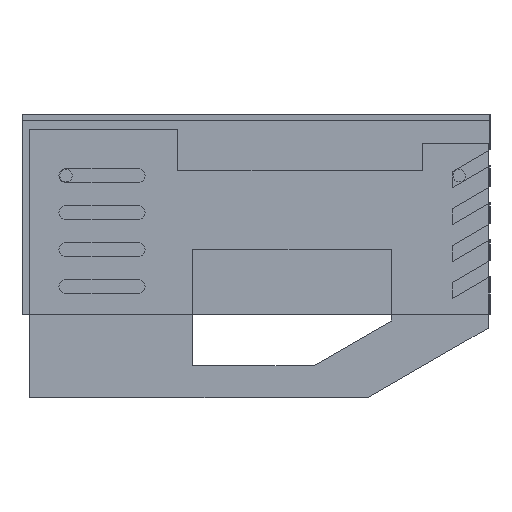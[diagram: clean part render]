
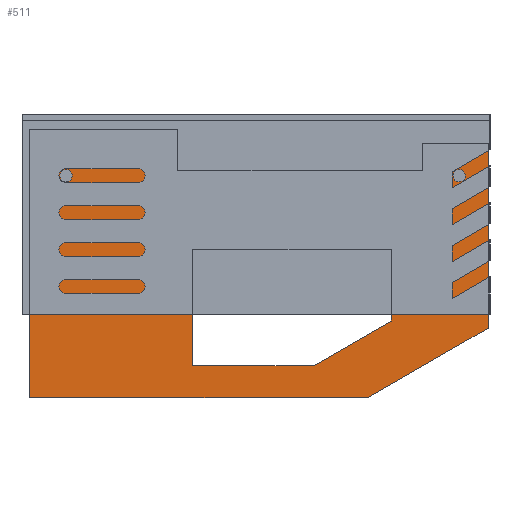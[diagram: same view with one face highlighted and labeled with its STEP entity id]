
A CAD part, left-side view. The second image highlights one B-rep face of the part: STEP entity #511.
In plain terms, the highlighted planar face has unit normal (-1, 0, 0).
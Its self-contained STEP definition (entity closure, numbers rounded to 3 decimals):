
#511 = ADVANCED_FACE( '', ( #1026, #1027, #1028, #1029 ), #1030, .F. );
#1026 = FACE_BOUND( '', #1520, .T. );
#1027 = FACE_BOUND( '', #1521, .T. );
#1028 = FACE_BOUND( '', #1522, .T. );
#1029 = FACE_OUTER_BOUND( '', #1523, .T. );
#1030 = PLANE( '', #1524 );
#1520 = EDGE_LOOP( '', ( #2846 ) );
#1521 = EDGE_LOOP( '', ( #2847 ) );
#1522 = EDGE_LOOP( '', ( #2848, #2849, #2850, #2851, #2852 ) );
#1523 = EDGE_LOOP( '', ( #2853, #2854, #2855, #2856, #2857, #2858, #2859, #2860, #2861 ) );
#1524 = AXIS2_PLACEMENT_3D( '', #2862, #2863, #2864 );
#2846 = ORIENTED_EDGE( '', *, *, #3324, .T. );
#2847 = ORIENTED_EDGE( '', *, *, #3339, .T. );
#2848 = ORIENTED_EDGE( '', *, *, #3400, .T. );
#2849 = ORIENTED_EDGE( '', *, *, #3393, .T. );
#2850 = ORIENTED_EDGE( '', *, *, #3276, .T. );
#2851 = ORIENTED_EDGE( '', *, *, #3388, .T. );
#2852 = ORIENTED_EDGE( '', *, *, #3110, .T. );
#2853 = ORIENTED_EDGE( '', *, *, #3272, .F. );
#2854 = ORIENTED_EDGE( '', *, *, #3055, .F. );
#2855 = ORIENTED_EDGE( '', *, *, #3060, .F. );
#2856 = ORIENTED_EDGE( '', *, *, #3353, .F. );
#2857 = ORIENTED_EDGE( '', *, *, #3208, .F. );
#2858 = ORIENTED_EDGE( '', *, *, #3009, .F. );
#2859 = ORIENTED_EDGE( '', *, *, #3391, .F. );
#2860 = ORIENTED_EDGE( '', *, *, #3300, .F. );
#2861 = ORIENTED_EDGE( '', *, *, #3289, .F. );
#2862 = CARTESIAN_POINT( '', ( 0., 0., 0. ) );
#2863 = DIRECTION( '', ( 1., 0., 0. ) );
#2864 = DIRECTION( '', ( 0., 0., -1. ) );
#3009 = EDGE_CURVE( '', #3635, #3636, #3637, .T. );
#3055 = EDGE_CURVE( '', #3714, #3715, #3716, .T. );
#3060 = EDGE_CURVE( '', #3723, #3714, #3724, .T. );
#3110 = EDGE_CURVE( '', #3810, #3811, #3812, .T. );
#3208 = EDGE_CURVE( '', #3636, #3948, #3949, .T. );
#3272 = EDGE_CURVE( '', #3715, #4042, #4043, .T. );
#3276 = EDGE_CURVE( '', #4047, #4048, #4049, .T. );
#3289 = EDGE_CURVE( '', #4042, #4064, #4065, .T. );
#3300 = EDGE_CURVE( '', #4064, #4078, #4079, .T. );
#3324 = EDGE_CURVE( '', #4108, #4108, #4109, .T. );
#3339 = EDGE_CURVE( '', #4129, #4129, #4130, .T. );
#3353 = EDGE_CURVE( '', #3948, #3723, #4145, .T. );
#3388 = EDGE_CURVE( '', #4048, #3810, #4181, .T. );
#3391 = EDGE_CURVE( '', #4078, #3635, #4184, .T. );
#3393 = EDGE_CURVE( '', #4186, #4047, #4187, .T. );
#3400 = EDGE_CURVE( '', #3811, #4186, #4194, .T. );
#3635 = VERTEX_POINT( '', #4513 );
#3636 = VERTEX_POINT( '', #4514 );
#3637 = LINE( '', #4515, #4516 );
#3714 = VERTEX_POINT( '', #4627 );
#3715 = VERTEX_POINT( '', #4628 );
#3716 = LINE( '', #4629, #4630 );
#3723 = VERTEX_POINT( '', #4640 );
#3724 = LINE( '', #4641, #4642 );
#3810 = VERTEX_POINT( '', #4763 );
#3811 = VERTEX_POINT( '', #4764 );
#3812 = LINE( '', #4765, #4766 );
#3948 = VERTEX_POINT( '', #4965 );
#3949 = LINE( '', #4966, #4967 );
#4042 = VERTEX_POINT( '', #5110 );
#4043 = LINE( '', #5111, #5112 );
#4047 = VERTEX_POINT( '', #5117 );
#4048 = VERTEX_POINT( '', #5118 );
#4049 = LINE( '', #5119, #5120 );
#4064 = VERTEX_POINT( '', #5140 );
#4065 = LINE( '', #5141, #5142 );
#4078 = VERTEX_POINT( '', #5161 );
#4079 = LINE( '', #5162, #5163 );
#4108 = VERTEX_POINT( '', #5204 );
#4109 = CIRCLE( '', #5205, 2. );
#4129 = VERTEX_POINT( '', #5236 );
#4130 = CIRCLE( '', #5237, 2. );
#4145 = LINE( '', #5255, #5256 );
#4181 = LINE( '', #5302, #5303 );
#4184 = LINE( '', #5306, #5307 );
#4186 = VERTEX_POINT( '', #5309 );
#4187 = LINE( '', #5310, #5311 );
#4194 = LINE( '', #5320, #5321 );
#4513 = CARTESIAN_POINT( '', ( 0., -115.63, 10.55 ) );
#4514 = CARTESIAN_POINT( '', ( 0., -137.08, 10.55 ) );
#4515 = CARTESIAN_POINT( '', ( 0., -115.63, 10.55 ) );
#4516 = VECTOR( '', #5472, 1000. );
#4627 = CARTESIAN_POINT( '', ( 0., 11.84, -72.15 ) );
#4628 = CARTESIAN_POINT( '', ( 0., 11.84, 14.95 ) );
#4629 = CARTESIAN_POINT( '', ( 0., 11.84, -72.15 ) );
#4630 = VECTOR( '', #5510, 1000. );
#4640 = CARTESIAN_POINT( '', ( 0., -97.88, -72.15 ) );
#4641 = CARTESIAN_POINT( '', ( 0., -97.88, -72.15 ) );
#4642 = VECTOR( '', #5514, 1000. );
#4763 = CARTESIAN_POINT( '', ( 0., -41.17, -61.65 ) );
#4764 = CARTESIAN_POINT( '', ( 0., -41.17, -23.96 ) );
#4765 = CARTESIAN_POINT( '', ( 0., -41.17, -61.65 ) );
#4766 = VECTOR( '', #5574, 1000. );
#4965 = CARTESIAN_POINT( '', ( 0., -137.08, -49.518 ) );
#4966 = CARTESIAN_POINT( '', ( 0., -137.08, 10.55 ) );
#4967 = VECTOR( '', #5680, 1000. );
#5110 = CARTESIAN_POINT( '', ( 0., -36.36, 14.95 ) );
#5111 = CARTESIAN_POINT( '', ( 0., 11.84, 14.95 ) );
#5112 = VECTOR( '', #5740, 1000. );
#5117 = CARTESIAN_POINT( '', ( 0., -105.62, -47.187 ) );
#5118 = CARTESIAN_POINT( '', ( 0., -80.57, -61.65 ) );
#5119 = CARTESIAN_POINT( '', ( 0., -105.62, -47.187 ) );
#5120 = VECTOR( '', #5742, 1000. );
#5140 = CARTESIAN_POINT( '', ( 0., -36.36, 1.55 ) );
#5141 = CARTESIAN_POINT( '', ( 0., -36.36, 14.95 ) );
#5142 = VECTOR( '', #5754, 1000. );
#5161 = CARTESIAN_POINT( '', ( 0., -115.63, 1.55 ) );
#5162 = CARTESIAN_POINT( '', ( 0., -36.36, 1.55 ) );
#5163 = VECTOR( '', #5761, 1000. );
#5204 = CARTESIAN_POINT( '', ( 0., -127.7, -2. ) );
#5205 = AXIS2_PLACEMENT_3D( '', #5777, #5778, #5779 );
#5236 = CARTESIAN_POINT( '', ( 0., 0., -2. ) );
#5237 = AXIS2_PLACEMENT_3D( '', #5794, #5795, #5796 );
#5255 = CARTESIAN_POINT( '', ( 0., -137.08, -49.518 ) );
#5256 = VECTOR( '', #5803, 1000. );
#5302 = CARTESIAN_POINT( '', ( 0., -80.57, -61.65 ) );
#5303 = VECTOR( '', #5817, 1000. );
#5306 = CARTESIAN_POINT( '', ( 0., -115.63, 1.55 ) );
#5307 = VECTOR( '', #5818, 1000. );
#5309 = CARTESIAN_POINT( '', ( 0., -105.62, -23.96 ) );
#5310 = CARTESIAN_POINT( '', ( 0., -105.62, -23.96 ) );
#5311 = VECTOR( '', #5819, 1000. );
#5320 = CARTESIAN_POINT( '', ( 0., -41.17, -23.96 ) );
#5321 = VECTOR( '', #5822, 1000. );
#5472 = DIRECTION( '', ( 0., -1., 0. ) );
#5510 = DIRECTION( '', ( 0., 0., 1. ) );
#5514 = DIRECTION( '', ( 0., 1., 0. ) );
#5574 = DIRECTION( '', ( 0., 0., 1. ) );
#5680 = DIRECTION( '', ( 0., 0., -1. ) );
#5740 = DIRECTION( '', ( 0., -1., 0. ) );
#5742 = DIRECTION( '', ( 0., 0.866, -0.5 ) );
#5754 = DIRECTION( '', ( 0., 0., -1. ) );
#5761 = DIRECTION( '', ( 0., -1., 0. ) );
#5777 = CARTESIAN_POINT( '', ( 0., -127.7, 0. ) );
#5778 = DIRECTION( '', ( 1., 0., 0. ) );
#5779 = DIRECTION( '', ( 0., 0., -1. ) );
#5794 = CARTESIAN_POINT( '', ( 0., 0., 0. ) );
#5795 = DIRECTION( '', ( 1., 0., 0. ) );
#5796 = DIRECTION( '', ( 0., 0., -1. ) );
#5803 = DIRECTION( '', ( 0., 0.866, -0.5 ) );
#5817 = DIRECTION( '', ( 0., 1., 0. ) );
#5818 = DIRECTION( '', ( 0., 0., 1. ) );
#5819 = DIRECTION( '', ( 0., 0., -1. ) );
#5822 = DIRECTION( '', ( 0., -1., 0. ) );
